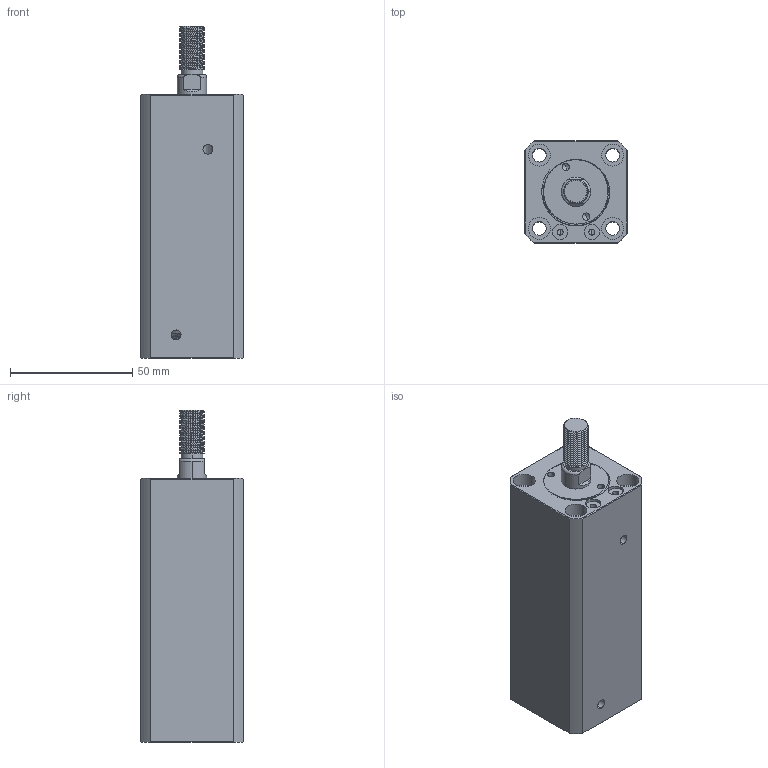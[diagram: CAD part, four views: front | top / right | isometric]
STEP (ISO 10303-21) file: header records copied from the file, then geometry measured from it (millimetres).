
FILE_DESCRIPTION (( 'STEP AP214' ), '1' );
FILE_NAME ('chtb-sdma20x65w_asm.STEP', '2018-05-18T04:42:33', ( 'Windows' ), ( 'Microsoft' ), 'SwSTEP 2.0', 'SolidWorks 2015', '' );
FILE_SCHEMA (( 'AUTOMOTIVE_DESIGN' ));
Length unit declared in the file: millimetre
Products named in the file (4): CHTB-SDMA20X65WHSG; QG_3; CHTB-SDMA20X65NBT; chtb-sdma20x65w_asm
Assembly tree (3 placements, depth 2):
  chtb-sdma20x65w_asm
    CHTB-SDMA20X65NBT
    QG_3
    CHTB-SDMA20X65WHSG
Bounding box: 42 x 42 x 136 mm (x, y, z)
Volume: 161890.9 mm3; surface area: 47093.8 mm2
Topology: 3 solids, 3 shells, 247 faces, 671 edges, 446 vertices
Faces by surface type: cylinder 144, plane 48, torus 25, bspline 23, cone 7
Entity records: 14895 total; most frequent: CARTESIAN_POINT 9018, ORIENTED_EDGE 1334, DIRECTION 1075, EDGE_CURVE 667, VERTEX_POINT 446, AXIS2_PLACEMENT_3D 441, EDGE_LOOP 285, FACE_OUTER_BOUND 247
